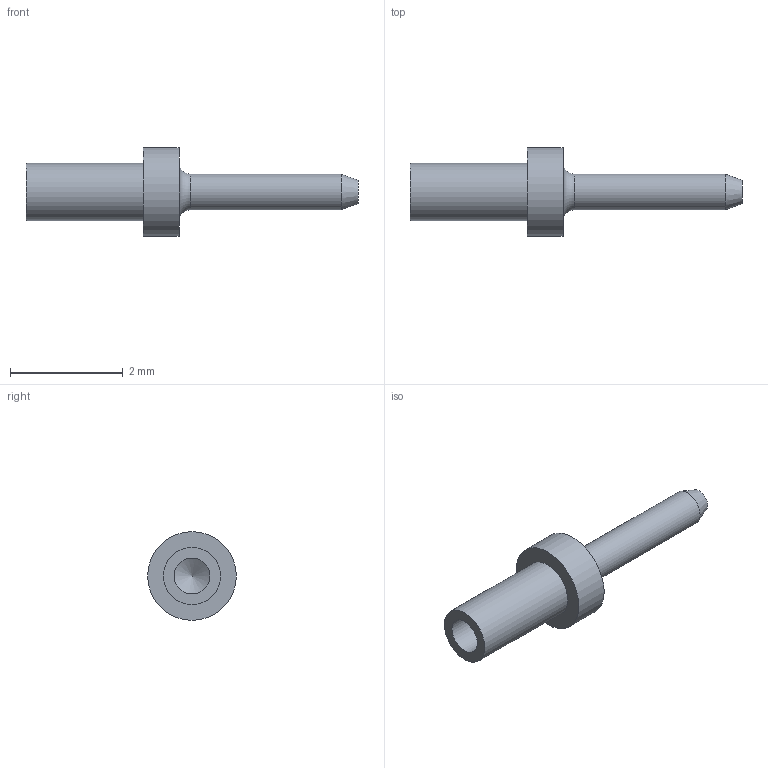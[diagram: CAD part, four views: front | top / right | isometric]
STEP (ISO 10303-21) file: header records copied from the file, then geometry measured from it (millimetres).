
FILE_DESCRIPTION(/* description */ (''),/* implementation_level */ '2;1');
FILE_NAME(/* name */ 'Z:\STEP folder\460323102.ipt.stp',/* time_stamp */ '2016-12-21T13:05:52+00:00',/* author */ ('Paul Karlsons'),/* organization */ (''),/* preprocessor_version */ 'ST-DEVELOPER v15.2',/* originating_system */ 'Autodesk Inventor 2014',/* authorisation */ '');
FILE_SCHEMA (('AUTOMOTIVE_DESIGN { 1 0 10303 214 3 1 1 }'));
Length unit declared in the file: millimetre
Products named in the file (1): 460323102
Bounding box: 5.89 x 1.57 x 1.57 mm (x, y, z)
Volume: 3.6 mm3; surface area: 21.4 mm2
Topology: 1 solids, 1 shells, 11 faces, 18 edges, 11 vertices
Faces by surface type: cylinder 4, plane 4, cone 2, torus 1
Full cylindrical faces by diameter (mm): 0.635 x2, 1.016 x1, 1.574 x1
Entity records: 235 total; most frequent: DIRECTION 44, CARTESIAN_POINT 32, AXIS2_PLACEMENT_3D 22, EDGE_LOOP 20, ORIENTED_EDGE 20, ADVANCED_FACE 11, FACE_BOUND 10, FACE_OUTER_BOUND 10
